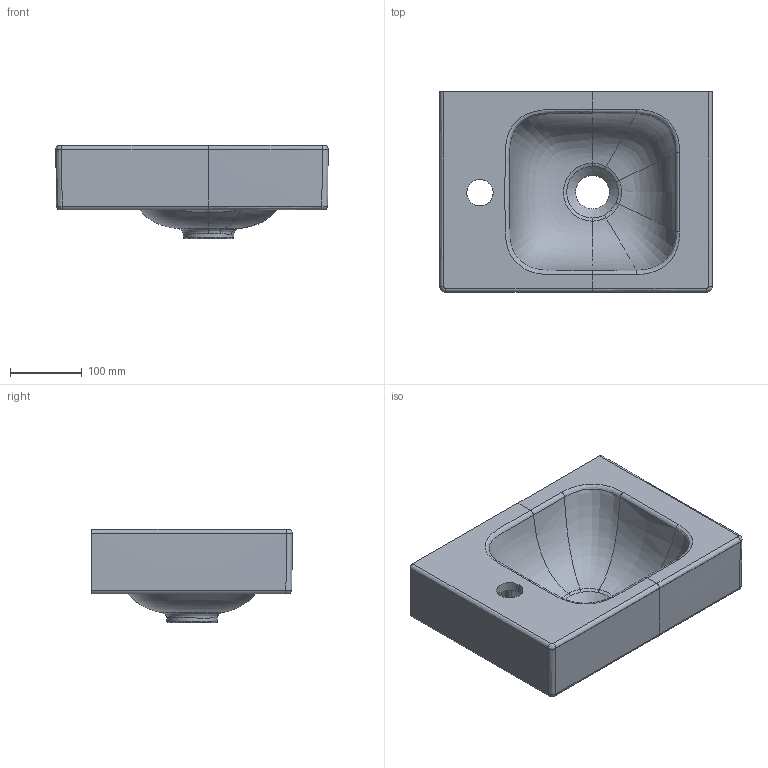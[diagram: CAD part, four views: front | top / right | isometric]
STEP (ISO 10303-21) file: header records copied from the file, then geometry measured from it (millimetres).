
FILE_DESCRIPTION(/* description */ (''),/* implementation_level */ '2;1');
FILE_NAME(/* name */ 'C:\Planerdaten\Export PLA\124836000\stp\124836000.stp',/* time_stamp */ '2020-05-29T12:46:47+02:00',/* author */ ('JANAN'),/* organization */ (''),/* preprocessor_version */ 'ST-DEVELOPER v16.13',/* originating_system */ 'Autodesk Inventor 2018',/* authorisation */ '');
FILE_SCHEMA (('AUTOMOTIVE_DESIGN { 1 0 10303 214 3 1 1 }'));
Products named in the file (1): HWB Ge+iCn B38 o/ÜLF m/HLo-li
Bounding box: 380 x 279.85 x 130.03 mm (x, y, z)
Volume: 5016277.5 mm3; surface area: 414957.2 mm2
Topology: 1 solids, 1 shells, 340 faces, 803 edges, 464 vertices
Faces by surface type: bspline 190, cylinder 96, plane 51, cone 2, torus 1
Full cylindrical faces by diameter (mm): 47 x2
Entity records: 50775 total; most frequent: CARTESIAN_POINT 43823, ORIENTED_EDGE 1594, DIRECTION 1064, EDGE_CURVE 797, VERTEX_POINT 463, AXIS2_PLACEMENT_3D 415, EDGE_LOOP 348, STYLED_ITEM 341
